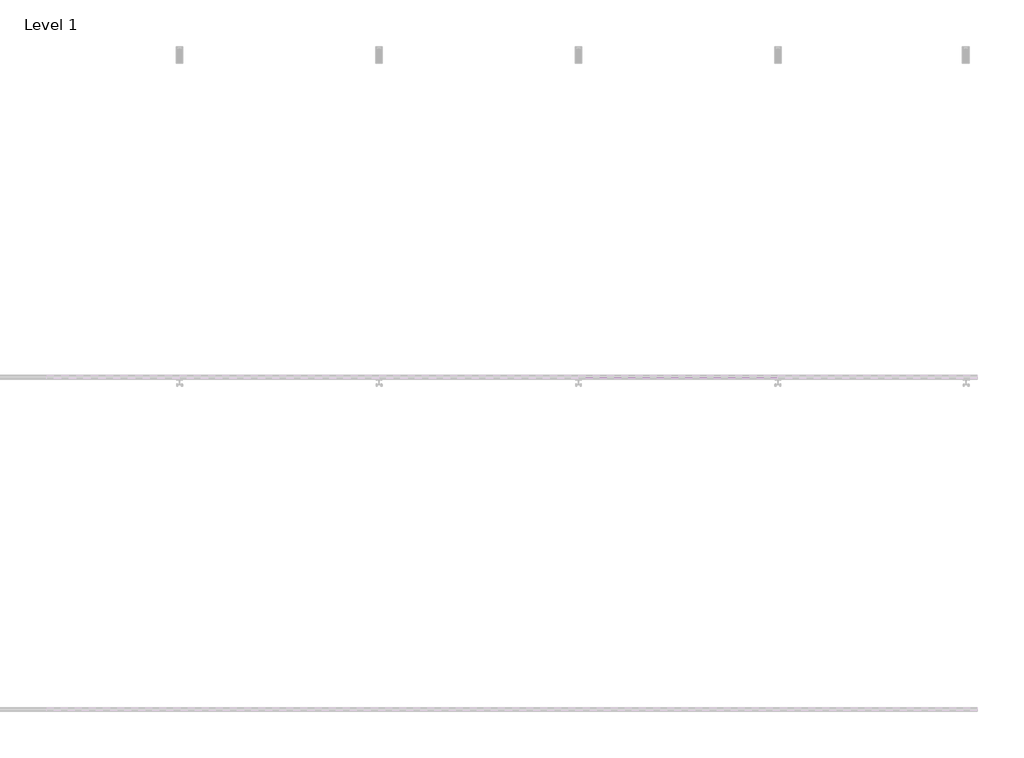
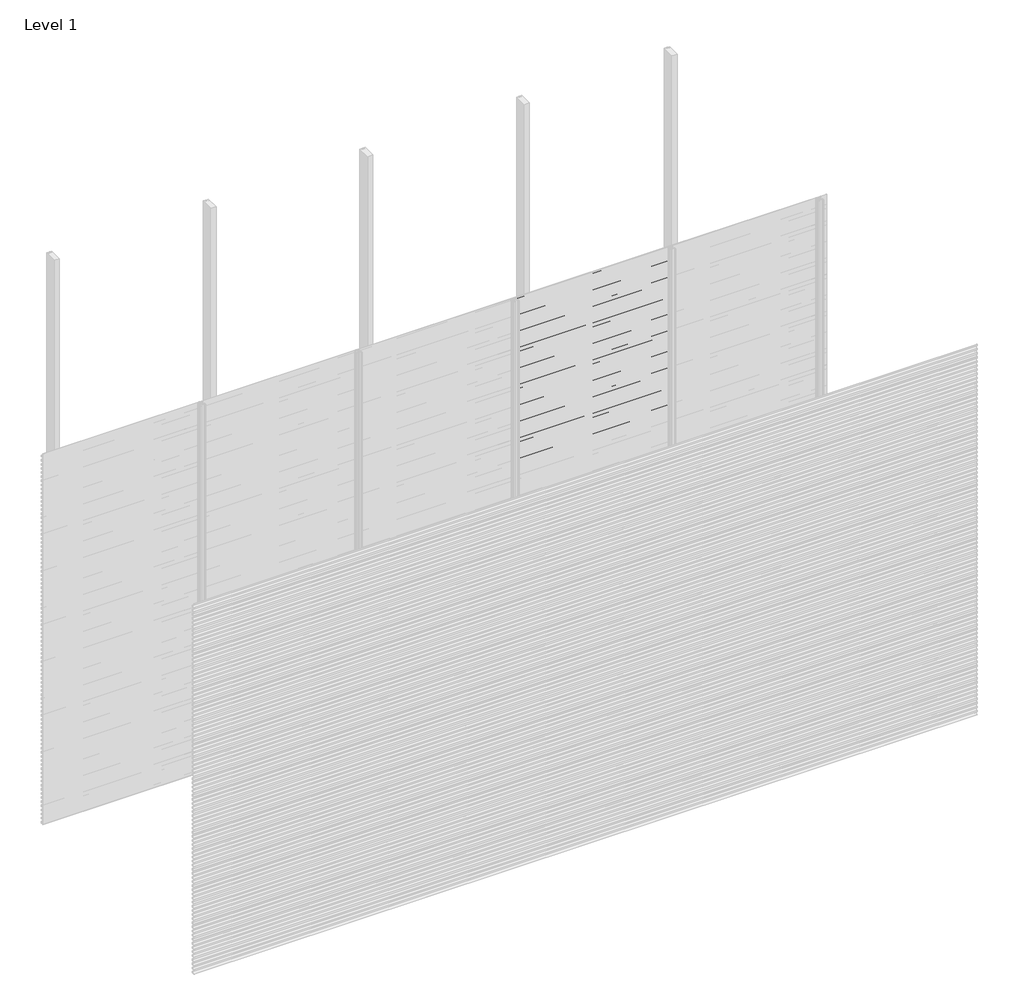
# One storey, part 23 of 77: 72 proxies.
"""IFC4 building model written with IfcOpenShell, lengths in millimetres."""

from ifc_helpers import new_model, si_unit, frame, origin, place, context, project, spatial, polyline, outline, extrude, element, save

model = new_model("IFC4")

# Units and contexts
model_context = context("Model", 3, world=origin())
ifc_project = project(units=[si_unit("LENGTHUNIT", "METRE", prefix="MILLI")], contexts=[model_context])

# Site, building, storey
site = spatial("IfcSite", under=ifc_project)
building = spatial("IfcBuilding", under=site)
storey = spatial("IfcBuildingStorey", under=building, Name="Level 1", Elevation=0.0)

# Proxies
placement = place(None, origin())
element("IfcBuildingElementProxy", 1, Name="Wall Sweeps", at=placement, inside=storey, context=model_context, shape_type="SweptSolid", body=[
    extrude(outline(polyline([(-41978.6, 1007.8359887), (-41998.0, 1019.0366691), (-41998.0, 1032.3), (-41997.0, 1032.3), (-41997.0, 1019.6191057), (-41977.6, 1008.4185105), (-41977.6, 994.8185105), (-41978.6, 996.3953129), (-41978.6, 1002.2032062), (-41995.9773817, 994.1), (-41996.4, 995.0063078), (-41978.6, 1003.3065841), (-41978.6, 1007.8359887)])), frame((2400.0, 0.0, 0.0), z_axis=(1.0, 0.0, 0.0), x_axis=(0.0, 1.0, 0.0)), (0.0, 0.0, 1.0), 1200.0),
])
element("IfcBuildingElementProxy", 2, Name="Wall Sweeps", at=placement, inside=storey, context=model_context, shape_type="SweptSolid", body=[
    extrude(outline(polyline([(-41978.6, 974.5359887), (-41998.0, 985.7366691), (-41998.0, 999.0), (-41997.0, 999.0), (-41997.0, 986.3191057), (-41977.6, 975.1185105), (-41977.6, 961.5185105), (-41978.6, 963.0953129), (-41978.6, 968.9032062), (-41995.9773817, 960.8), (-41996.4, 961.7063078), (-41978.6, 970.0065841), (-41978.6, 974.5359887)])), frame((2400.0, 0.0, 0.0), z_axis=(1.0, 0.0, 0.0), x_axis=(0.0, 1.0, 0.0)), (0.0, 0.0, 1.0), 1200.0),
])
element("IfcBuildingElementProxy", 3, Name="Wall Sweeps", at=placement, inside=storey, context=model_context, shape_type="SweptSolid", body=[
    extrude(outline(polyline([(-41978.6, 941.2359887), (-41998.0, 952.4366691), (-41998.0, 965.7), (-41997.0, 965.7), (-41997.0, 953.0191057), (-41977.6, 941.8185105), (-41977.6, 928.2185105), (-41978.6, 929.7953129), (-41978.6, 935.6032062), (-41995.9773817, 927.5), (-41996.4, 928.4063078), (-41978.6, 936.7065841), (-41978.6, 941.2359887)])), frame((2400.0, 0.0, 0.0), z_axis=(1.0, 0.0, 0.0), x_axis=(0.0, 1.0, 0.0)), (0.0, 0.0, 1.0), 1200.0),
])
element("IfcBuildingElementProxy", 4, Name="Wall Sweeps", at=placement, inside=storey, context=model_context, shape_type="SweptSolid", body=[
    extrude(outline(polyline([(-41978.6, 907.9359887), (-41998.0, 919.1366691), (-41998.0, 932.4), (-41997.0, 932.4), (-41997.0, 919.7191057), (-41977.6, 908.5185105), (-41977.6, 894.9185105), (-41978.6, 896.4953129), (-41978.6, 902.3032062), (-41995.9773817, 894.2), (-41996.4, 895.1063078), (-41978.6, 903.4065841), (-41978.6, 907.9359887)])), frame((2400.0, 0.0, 0.0), z_axis=(1.0, 0.0, 0.0), x_axis=(0.0, 1.0, 0.0)), (0.0, 0.0, 1.0), 1200.0),
])
element("IfcBuildingElementProxy", 5, Name="Wall Sweeps", at=placement, inside=storey, context=model_context, shape_type="SweptSolid", body=[
    extrude(outline(polyline([(-41978.6, 874.6359887), (-41998.0, 885.8366691), (-41998.0, 899.1), (-41997.0, 899.1), (-41997.0, 886.4191057), (-41977.6, 875.2185105), (-41977.6, 861.6185105), (-41978.6, 863.1953129), (-41978.6, 869.0032062), (-41995.9773817, 860.9), (-41996.4, 861.8063078), (-41978.6, 870.1065841), (-41978.6, 874.6359887)])), frame((2400.0, 0.0, 0.0), z_axis=(1.0, 0.0, 0.0), x_axis=(0.0, 1.0, 0.0)), (0.0, 0.0, 1.0), 1200.0),
])
element("IfcBuildingElementProxy", 6, Name="Wall Sweeps", at=placement, inside=storey, context=model_context, shape_type="SweptSolid", body=[
    extrude(outline(polyline([(-41978.6, 841.3359887), (-41998.0, 852.5366691), (-41998.0, 865.8), (-41997.0, 865.8), (-41997.0, 853.1191057), (-41977.6, 841.9185105), (-41977.6, 828.3185105), (-41978.6, 829.8953129), (-41978.6, 835.7032062), (-41995.9773817, 827.6), (-41996.4, 828.5063078), (-41978.6, 836.8065841), (-41978.6, 841.3359887)])), frame((2400.0, 0.0, 0.0), z_axis=(1.0, 0.0, 0.0), x_axis=(0.0, 1.0, 0.0)), (0.0, 0.0, 1.0), 1200.0),
])
element("IfcBuildingElementProxy", 7, Name="Wall Sweeps", at=placement, inside=storey, context=model_context, shape_type="SweptSolid", body=[
    extrude(outline(polyline([(-41978.6, 808.0359887), (-41998.0, 819.2366691), (-41998.0, 832.5), (-41997.0, 832.5), (-41997.0, 819.8191057), (-41977.6, 808.6185105), (-41977.6, 795.0185105), (-41978.6, 796.5953129), (-41978.6, 802.4032062), (-41995.9773817, 794.3), (-41996.4, 795.2063078), (-41978.6, 803.5065841), (-41978.6, 808.0359887)])), frame((2400.0, 0.0, 0.0), z_axis=(1.0, 0.0, 0.0), x_axis=(0.0, 1.0, 0.0)), (0.0, 0.0, 1.0), 1200.0),
])
element("IfcBuildingElementProxy", 8, Name="Wall Sweeps", at=placement, inside=storey, context=model_context, shape_type="SweptSolid", body=[
    extrude(outline(polyline([(-41978.6, 774.7359887), (-41998.0, 785.9366691), (-41998.0, 799.2), (-41997.0, 799.2), (-41997.0, 786.5191057), (-41977.6, 775.3185105), (-41977.6, 761.7185105), (-41978.6, 763.2953129), (-41978.6, 769.1032062), (-41995.9773817, 761.0), (-41996.4, 761.9063078), (-41978.6, 770.2065841), (-41978.6, 774.7359887)])), frame((2400.0, 0.0, 0.0), z_axis=(1.0, 0.0, 0.0), x_axis=(0.0, 1.0, 0.0)), (0.0, 0.0, 1.0), 1200.0),
])
element("IfcBuildingElementProxy", 9, Name="Wall Sweeps", at=placement, inside=storey, context=model_context, shape_type="SweptSolid", body=[
    extrude(outline(polyline([(-41978.6, 741.4359887), (-41998.0, 752.6366691), (-41998.0, 765.9), (-41997.0, 765.9), (-41997.0, 753.2191057), (-41977.6, 742.0185105), (-41977.6, 728.4185105), (-41978.6, 729.9953129), (-41978.6, 735.8032062), (-41995.9773817, 727.7), (-41996.4, 728.6063078), (-41978.6, 736.9065841), (-41978.6, 741.4359887)])), frame((2400.0, 0.0, 0.0), z_axis=(1.0, 0.0, 0.0), x_axis=(0.0, 1.0, 0.0)), (0.0, 0.0, 1.0), 1200.0),
])
element("IfcBuildingElementProxy", 10, Name="Wall Sweeps", at=placement, inside=storey, context=model_context, shape_type="SweptSolid", body=[
    extrude(outline(polyline([(-41978.6, 708.1359887), (-41998.0, 719.3366691), (-41998.0, 732.6), (-41997.0, 732.6), (-41997.0, 719.9191057), (-41977.6, 708.7185105), (-41977.6, 695.1185105), (-41978.6, 696.6953129), (-41978.6, 702.5032062), (-41995.9773817, 694.4), (-41996.4, 695.3063078), (-41978.6, 703.6065841), (-41978.6, 708.1359887)])), frame((2400.0, 0.0, 0.0), z_axis=(1.0, 0.0, 0.0), x_axis=(0.0, 1.0, 0.0)), (0.0, 0.0, 1.0), 1200.0),
])
element("IfcBuildingElementProxy", 11, Name="Wall Sweeps", at=placement, inside=storey, context=model_context, shape_type="SweptSolid", body=[
    extrude(outline(polyline([(-41978.6, 674.8359887), (-41998.0, 686.0366691), (-41998.0, 699.3), (-41997.0, 699.3), (-41997.0, 686.6191057), (-41977.6, 675.4185105), (-41977.6, 661.8185105), (-41978.6, 663.3953129), (-41978.6, 669.2032062), (-41995.9773817, 661.1), (-41996.4, 662.0063078), (-41978.6, 670.3065841), (-41978.6, 674.8359887)])), frame((2400.0, 0.0, 0.0), z_axis=(1.0, 0.0, 0.0), x_axis=(0.0, 1.0, 0.0)), (0.0, 0.0, 1.0), 1200.0),
])
element("IfcBuildingElementProxy", 12, Name="Wall Sweeps", at=placement, inside=storey, context=model_context, shape_type="SweptSolid", body=[
    extrude(outline(polyline([(-41978.6, 641.5359887), (-41998.0, 652.7366691), (-41998.0, 666.0), (-41997.0, 666.0), (-41997.0, 653.3191057), (-41977.6, 642.1185105), (-41977.6, 628.5185105), (-41978.6, 630.0953129), (-41978.6, 635.9032062), (-41995.9773817, 627.8), (-41996.4, 628.7063078), (-41978.6, 637.0065841), (-41978.6, 641.5359887)])), frame((2400.0, 0.0, 0.0), z_axis=(1.0, 0.0, 0.0), x_axis=(0.0, 1.0, 0.0)), (0.0, 0.0, 1.0), 1200.0),
])
element("IfcBuildingElementProxy", 13, Name="Wall Sweeps", at=placement, inside=storey, context=model_context, shape_type="SweptSolid", body=[
    extrude(outline(polyline([(-41978.6, 608.2359887), (-41998.0, 619.4366691), (-41998.0, 632.7), (-41997.0, 632.7), (-41997.0, 620.0191057), (-41977.6, 608.8185105), (-41977.6, 595.2185105), (-41978.6, 596.7953129), (-41978.6, 602.6032062), (-41995.9773817, 594.5), (-41996.4, 595.4063078), (-41978.6, 603.7065841), (-41978.6, 608.2359887)])), frame((2400.0, 0.0, 0.0), z_axis=(1.0, 0.0, 0.0), x_axis=(0.0, 1.0, 0.0)), (0.0, 0.0, 1.0), 1200.0),
])
element("IfcBuildingElementProxy", 14, Name="Wall Sweeps", at=placement, inside=storey, context=model_context, shape_type="SweptSolid", body=[
    extrude(outline(polyline([(-41978.6, 574.9359887), (-41998.0, 586.1366691), (-41998.0, 599.4), (-41997.0, 599.4), (-41997.0, 586.7191057), (-41977.6, 575.5185105), (-41977.6, 561.9185105), (-41978.6, 563.4953129), (-41978.6, 569.3032062), (-41995.9773817, 561.2), (-41996.4, 562.1063078), (-41978.6, 570.4065841), (-41978.6, 574.9359887)])), frame((2400.0, 0.0, 0.0), z_axis=(1.0, 0.0, 0.0), x_axis=(0.0, 1.0, 0.0)), (0.0, 0.0, 1.0), 1200.0),
])
element("IfcBuildingElementProxy", 15, Name="Wall Sweeps", at=placement, inside=storey, context=model_context, shape_type="SweptSolid", body=[
    extrude(outline(polyline([(-41978.6, 541.6359887), (-41998.0, 552.8366691), (-41998.0, 566.1), (-41997.0, 566.1), (-41997.0, 553.4191057), (-41977.6, 542.2185105), (-41977.6, 528.6185105), (-41978.6, 530.1953129), (-41978.6, 536.0032062), (-41995.9773817, 527.9), (-41996.4, 528.8063078), (-41978.6, 537.1065841), (-41978.6, 541.6359887)])), frame((2400.0, 0.0, 0.0), z_axis=(1.0, 0.0, 0.0), x_axis=(0.0, 1.0, 0.0)), (0.0, 0.0, 1.0), 1200.0),
])
element("IfcBuildingElementProxy", 16, Name="Wall Sweeps", at=placement, inside=storey, context=model_context, shape_type="SweptSolid", body=[
    extrude(outline(polyline([(-41978.6, 508.3359887), (-41998.0, 519.5366691), (-41998.0, 532.8), (-41997.0, 532.8), (-41997.0, 520.1191057), (-41977.6, 508.9185105), (-41977.6, 495.3185105), (-41978.6, 496.8953129), (-41978.6, 502.7032062), (-41995.9773817, 494.6), (-41996.4, 495.5063078), (-41978.6, 503.8065841), (-41978.6, 508.3359887)])), frame((2400.0, 0.0, 0.0), z_axis=(1.0, 0.0, 0.0), x_axis=(0.0, 1.0, 0.0)), (0.0, 0.0, 1.0), 1200.0),
])
element("IfcBuildingElementProxy", 17, Name="Wall Sweeps", at=placement, inside=storey, context=model_context, shape_type="SweptSolid", body=[
    extrude(outline(polyline([(-41978.6, 475.0359887), (-41998.0, 486.2366691), (-41998.0, 499.5), (-41997.0, 499.5), (-41997.0, 486.8191057), (-41977.6, 475.6185105), (-41977.6, 462.0185105), (-41978.6, 463.5953129), (-41978.6, 469.4032062), (-41995.9773817, 461.3), (-41996.4, 462.2063078), (-41978.6, 470.5065841), (-41978.6, 475.0359887)])), frame((2400.0, 0.0, 0.0), z_axis=(1.0, 0.0, 0.0), x_axis=(0.0, 1.0, 0.0)), (0.0, 0.0, 1.0), 1200.0),
])
element("IfcBuildingElementProxy", 18, Name="Wall Sweeps", at=placement, inside=storey, context=model_context, shape_type="SweptSolid", body=[
    extrude(outline(polyline([(-41978.6, 441.7359887), (-41998.0, 452.9366691), (-41998.0, 466.2), (-41997.0, 466.2), (-41997.0, 453.5191057), (-41977.6, 442.3185105), (-41977.6, 428.7185105), (-41978.6, 430.2953129), (-41978.6, 436.1032062), (-41995.9773817, 428.0), (-41996.4, 428.9063078), (-41978.6, 437.2065841), (-41978.6, 441.7359887)])), frame((2400.0, 0.0, 0.0), z_axis=(1.0, 0.0, 0.0), x_axis=(0.0, 1.0, 0.0)), (0.0, 0.0, 1.0), 1200.0),
])
element("IfcBuildingElementProxy", 19, Name="Wall Sweeps", at=placement, inside=storey, context=model_context, shape_type="SweptSolid", body=[
    extrude(outline(polyline([(-41978.6, 408.4359887), (-41998.0, 419.6366691), (-41998.0, 432.9), (-41997.0, 432.9), (-41997.0, 420.2191057), (-41977.6, 409.0185105), (-41977.6, 395.4185105), (-41978.6, 396.9953129), (-41978.6, 402.8032062), (-41995.9773817, 394.7), (-41996.4, 395.6063078), (-41978.6, 403.9065841), (-41978.6, 408.4359887)])), frame((2400.0, 0.0, 0.0), z_axis=(1.0, 0.0, 0.0), x_axis=(0.0, 1.0, 0.0)), (0.0, 0.0, 1.0), 1200.0),
])
element("IfcBuildingElementProxy", 20, Name="Wall Sweeps", at=placement, inside=storey, context=model_context, shape_type="SweptSolid", body=[
    extrude(outline(polyline([(-41978.6, 375.1359887), (-41998.0, 386.3366691), (-41998.0, 399.6), (-41997.0, 399.6), (-41997.0, 386.9191057), (-41977.6, 375.7185105), (-41977.6, 362.1185105), (-41978.6, 363.6953129), (-41978.6, 369.5032062), (-41995.9773817, 361.4), (-41996.4, 362.3063078), (-41978.6, 370.6065841), (-41978.6, 375.1359887)])), frame((2400.0, 0.0, 0.0), z_axis=(1.0, 0.0, 0.0), x_axis=(0.0, 1.0, 0.0)), (0.0, 0.0, 1.0), 1200.0),
])
element("IfcBuildingElementProxy", 21, Name="Wall Sweeps", at=placement, inside=storey, context=model_context, shape_type="SweptSolid", body=[
    extrude(outline(polyline([(-41978.6, 341.8359887), (-41998.0, 353.0366691), (-41998.0, 366.3), (-41997.0, 366.3), (-41997.0, 353.6191057), (-41977.6, 342.4185105), (-41977.6, 328.8185105), (-41978.6, 330.3953129), (-41978.6, 336.2032062), (-41995.9773817, 328.1), (-41996.4, 329.0063078), (-41978.6, 337.3065841), (-41978.6, 341.8359887)])), frame((2400.0, 0.0, 0.0), z_axis=(1.0, 0.0, 0.0), x_axis=(0.0, 1.0, 0.0)), (0.0, 0.0, 1.0), 1200.0),
])
element("IfcBuildingElementProxy", 22, Name="Wall Sweeps", at=placement, inside=storey, context=model_context, shape_type="SweptSolid", body=[
    extrude(outline(polyline([(-41978.6, 308.5359887), (-41998.0, 319.7366691), (-41998.0, 333.0), (-41997.0, 333.0), (-41997.0, 320.3191057), (-41977.6, 309.1185105), (-41977.6, 295.5185105), (-41978.6, 297.0953129), (-41978.6, 302.9032062), (-41995.9773817, 294.8), (-41996.4, 295.7063078), (-41978.6, 304.0065841), (-41978.6, 308.5359887)])), frame((2400.0, 0.0, 0.0), z_axis=(1.0, 0.0, 0.0), x_axis=(0.0, 1.0, 0.0)), (0.0, 0.0, 1.0), 1200.0),
])
element("IfcBuildingElementProxy", 23, Name="Wall Sweeps", at=placement, inside=storey, context=model_context, shape_type="SweptSolid", body=[
    extrude(outline(polyline([(-41978.6, 275.2359887), (-41998.0, 286.4366691), (-41998.0, 299.7), (-41997.0, 299.7), (-41997.0, 287.0191057), (-41977.6, 275.8185105), (-41977.6, 262.2185105), (-41978.6, 263.7953129), (-41978.6, 269.6032062), (-41995.9773817, 261.5), (-41996.4, 262.4063078), (-41978.6, 270.7065841), (-41978.6, 275.2359887)])), frame((2400.0, 0.0, 0.0), z_axis=(1.0, 0.0, 0.0), x_axis=(0.0, 1.0, 0.0)), (0.0, 0.0, 1.0), 1200.0),
])
element("IfcBuildingElementProxy", 24, Name="Wall Sweeps", at=placement, inside=storey, context=model_context, shape_type="SweptSolid", body=[
    extrude(outline(polyline([(-41978.6, 241.9359887), (-41998.0, 253.1366691), (-41998.0, 266.4), (-41997.0, 266.4), (-41997.0, 253.7191057), (-41977.6, 242.5185105), (-41977.6, 228.9185105), (-41978.6, 230.4953129), (-41978.6, 236.3032062), (-41995.9773817, 228.2), (-41996.4, 229.1063078), (-41978.6, 237.4065841), (-41978.6, 241.9359887)])), frame((2400.0, 0.0, 0.0), z_axis=(1.0, 0.0, 0.0), x_axis=(0.0, 1.0, 0.0)), (0.0, 0.0, 1.0), 1200.0),
])
element("IfcBuildingElementProxy", 25, Name="Wall Sweeps", at=placement, inside=storey, context=model_context, shape_type="SweptSolid", body=[
    extrude(outline(polyline([(-41978.6, 208.6359887), (-41998.0, 219.8366691), (-41998.0, 233.1), (-41997.0, 233.1), (-41997.0, 220.4191057), (-41977.6, 209.2185105), (-41977.6, 195.6185105), (-41978.6, 197.1953129), (-41978.6, 203.0032062), (-41995.9773817, 194.9), (-41996.4, 195.8063078), (-41978.6, 204.1065841), (-41978.6, 208.6359887)])), frame((2400.0, 0.0, 0.0), z_axis=(1.0, 0.0, 0.0), x_axis=(0.0, 1.0, 0.0)), (0.0, 0.0, 1.0), 1200.0),
])
element("IfcBuildingElementProxy", 26, Name="Wall Sweeps", at=placement, inside=storey, context=model_context, shape_type="SweptSolid", body=[
    extrude(outline(polyline([(-41978.6, 175.3359887), (-41998.0, 186.5366691), (-41998.0, 199.8), (-41997.0, 199.8), (-41997.0, 187.1191057), (-41977.6, 175.9185105), (-41977.6, 162.3185105), (-41978.6, 163.8953129), (-41978.6, 169.7032062), (-41995.9773817, 161.6), (-41996.4, 162.5063078), (-41978.6, 170.8065841), (-41978.6, 175.3359887)])), frame((2400.0, 0.0, 0.0), z_axis=(1.0, 0.0, 0.0), x_axis=(0.0, 1.0, 0.0)), (0.0, 0.0, 1.0), 1200.0),
])
element("IfcBuildingElementProxy", 27, Name="Wall Sweeps", at=placement, inside=storey, context=model_context, shape_type="SweptSolid", body=[
    extrude(outline(polyline([(-41978.6, 142.0359887), (-41998.0, 153.2366691), (-41998.0, 166.5), (-41997.0, 166.5), (-41997.0, 153.8191057), (-41977.6, 142.6185105), (-41977.6, 129.0185105), (-41978.6, 130.5953129), (-41978.6, 136.4032062), (-41995.9773817, 128.3), (-41996.4, 129.2063078), (-41978.6, 137.5065841), (-41978.6, 142.0359887)])), frame((2400.0, 0.0, 0.0), z_axis=(1.0, 0.0, 0.0), x_axis=(0.0, 1.0, 0.0)), (0.0, 0.0, 1.0), 1200.0),
])
element("IfcBuildingElementProxy", 28, Name="Wall Sweeps", at=placement, inside=storey, context=model_context, shape_type="SweptSolid", body=[
    extrude(outline(polyline([(-41978.6, 108.7359887), (-41998.0, 119.9366691), (-41998.0, 133.2), (-41997.0, 133.2), (-41997.0, 120.5191057), (-41977.6, 109.3185105), (-41977.6, 95.7185105), (-41978.6, 97.2953129), (-41978.6, 103.1032062), (-41995.9773817, 95.0), (-41996.4, 95.9063078), (-41978.6, 104.2065841), (-41978.6, 108.7359887)])), frame((2400.0, 0.0, 0.0), z_axis=(1.0, 0.0, 0.0), x_axis=(0.0, 1.0, 0.0)), (0.0, 0.0, 1.0), 1200.0),
])
element("IfcBuildingElementProxy", 29, Name="Wall Sweeps", at=placement, inside=storey, context=model_context, shape_type="SweptSolid", body=[
    extrude(outline(polyline([(-41978.6, 75.4359887), (-41998.0, 86.6366691), (-41998.0, 99.9), (-41997.0, 99.9), (-41997.0, 87.2191057), (-41977.6, 76.0185105), (-41977.6, 62.4185105), (-41978.6, 63.9953129), (-41978.6, 69.8032062), (-41995.9773817, 61.7), (-41996.4, 62.6063078), (-41978.6, 70.9065841), (-41978.6, 75.4359887)])), frame((2400.0, 0.0, 0.0), z_axis=(1.0, 0.0, 0.0), x_axis=(0.0, 1.0, 0.0)), (0.0, 0.0, 1.0), 1200.0),
])
element("IfcBuildingElementProxy", 30, Name="Wall Sweeps", at=placement, inside=storey, context=model_context, shape_type="SweptSolid", body=[
    extrude(outline(polyline([(-41978.6, 42.1359887), (-41998.0, 53.3366691), (-41998.0, 66.6), (-41997.0, 66.6), (-41997.0, 53.9191057), (-41977.6, 42.7185105), (-41977.6, 29.1185105), (-41978.6, 30.6953129), (-41978.6, 36.5032062), (-41995.9773817, 28.4), (-41996.4, 29.3063078), (-41978.6, 37.6065841), (-41978.6, 42.1359887)])), frame((2400.0, 0.0, 0.0), z_axis=(1.0, 0.0, 0.0), x_axis=(0.0, 1.0, 0.0)), (0.0, 0.0, 1.0), 1200.0),
])
element("IfcBuildingElementProxy", 31, Name="Wall Sweeps", at=placement, inside=storey, context=model_context, shape_type="SweptSolid", body=[
    extrude(outline(polyline([(-41978.6, 8.8359887), (-41998.0, 20.0366691), (-41998.0, 33.3), (-41997.0, 33.3), (-41997.0, 20.6191057), (-41977.6, 9.4185105), (-41977.6, -4.1814895), (-41978.6, -2.6046871), (-41978.6, 3.2032062), (-41995.9773817, -4.9), (-41996.4, -3.9936922), (-41978.6, 4.3065841), (-41978.6, 8.8359887)])), frame((2400.0, 0.0, 0.0), z_axis=(1.0, 0.0, 0.0), x_axis=(0.0, 1.0, 0.0)), (0.0, 0.0, 1.0), 1200.0),
])
element("IfcBuildingElementProxy", 32, Name="Wall Sweeps", at=placement, inside=storey, context=model_context, shape_type="SweptSolid", body=[
    extrude(outline(polyline([(-41978.6, 2972.5359887), (-41998.0, 2983.7366691), (-41998.0, 2997.0), (-41997.0, 2997.0), (-41997.0, 2984.3191057), (-41977.6, 2973.1185105), (-41977.6, 2959.5185105), (-41978.6, 2961.0953129), (-41978.6, 2966.9032062), (-41995.9773817, 2958.8), (-41996.4, 2959.7063078), (-41978.6, 2968.0065841), (-41978.6, 2972.5359887)])), frame((3600.0, 0.0, 0.0), z_axis=(1.0, 0.0, 0.0), x_axis=(0.0, 1.0, 0.0)), (0.0, 0.0, 1.0), 1200.0),
])
element("IfcBuildingElementProxy", 33, Name="Wall Sweeps", at=placement, inside=storey, context=model_context, shape_type="SweptSolid", body=[
    extrude(outline(polyline([(-41978.6, 2939.2359887), (-41998.0, 2950.4366691), (-41998.0, 2963.7), (-41997.0, 2963.7), (-41997.0, 2951.0191057), (-41977.6, 2939.8185105), (-41977.6, 2926.2185105), (-41978.6, 2927.7953129), (-41978.6, 2933.6032062), (-41995.9773817, 2925.5), (-41996.4, 2926.4063078), (-41978.6, 2934.7065841), (-41978.6, 2939.2359887)])), frame((3600.0, 0.0, 0.0), z_axis=(1.0, 0.0, 0.0), x_axis=(0.0, 1.0, 0.0)), (0.0, 0.0, 1.0), 1200.0),
])
element("IfcBuildingElementProxy", 34, Name="Wall Sweeps", at=placement, inside=storey, context=model_context, shape_type="SweptSolid", body=[
    extrude(outline(polyline([(-41978.6, 2905.9359887), (-41998.0, 2917.1366691), (-41998.0, 2930.4), (-41997.0, 2930.4), (-41997.0, 2917.7191057), (-41977.6, 2906.5185105), (-41977.6, 2892.9185105), (-41978.6, 2894.4953129), (-41978.6, 2900.3032062), (-41995.9773817, 2892.2), (-41996.4, 2893.1063078), (-41978.6, 2901.4065841), (-41978.6, 2905.9359887)])), frame((3600.0, 0.0, 0.0), z_axis=(1.0, 0.0, 0.0), x_axis=(0.0, 1.0, 0.0)), (0.0, 0.0, 1.0), 1200.0),
])
element("IfcBuildingElementProxy", 35, Name="Wall Sweeps", at=placement, inside=storey, context=model_context, shape_type="SweptSolid", body=[
    extrude(outline(polyline([(-41978.6, 2872.6359887), (-41998.0, 2883.8366691), (-41998.0, 2897.1), (-41997.0, 2897.1), (-41997.0, 2884.4191057), (-41977.6, 2873.2185105), (-41977.6, 2859.6185105), (-41978.6, 2861.1953129), (-41978.6, 2867.0032062), (-41995.9773817, 2858.9), (-41996.4, 2859.8063078), (-41978.6, 2868.1065841), (-41978.6, 2872.6359887)])), frame((3600.0, 0.0, 0.0), z_axis=(1.0, 0.0, 0.0), x_axis=(0.0, 1.0, 0.0)), (0.0, 0.0, 1.0), 1200.0),
])
element("IfcBuildingElementProxy", 36, Name="Wall Sweeps", at=placement, inside=storey, context=model_context, shape_type="SweptSolid", body=[
    extrude(outline(polyline([(-41978.6, 2839.3359887), (-41998.0, 2850.5366691), (-41998.0, 2863.8), (-41997.0, 2863.8), (-41997.0, 2851.1191057), (-41977.6, 2839.9185105), (-41977.6, 2826.3185105), (-41978.6, 2827.8953129), (-41978.6, 2833.7032062), (-41995.9773817, 2825.6), (-41996.4, 2826.5063078), (-41978.6, 2834.8065841), (-41978.6, 2839.3359887)])), frame((3600.0, 0.0, 0.0), z_axis=(1.0, 0.0, 0.0), x_axis=(0.0, 1.0, 0.0)), (0.0, 0.0, 1.0), 1200.0),
])
element("IfcBuildingElementProxy", 37, Name="Wall Sweeps", at=placement, inside=storey, context=model_context, shape_type="SweptSolid", body=[
    extrude(outline(polyline([(-41978.6, 2806.0359887), (-41998.0, 2817.2366691), (-41998.0, 2830.5), (-41997.0, 2830.5), (-41997.0, 2817.8191057), (-41977.6, 2806.6185105), (-41977.6, 2793.0185105), (-41978.6, 2794.5953129), (-41978.6, 2800.4032062), (-41995.9773817, 2792.3), (-41996.4, 2793.2063078), (-41978.6, 2801.5065841), (-41978.6, 2806.0359887)])), frame((3600.0, 0.0, 0.0), z_axis=(1.0, 0.0, 0.0), x_axis=(0.0, 1.0, 0.0)), (0.0, 0.0, 1.0), 1200.0),
])
element("IfcBuildingElementProxy", 38, Name="Wall Sweeps", at=placement, inside=storey, context=model_context, shape_type="SweptSolid", body=[
    extrude(outline(polyline([(-41978.6, 2772.7359887), (-41998.0, 2783.9366691), (-41998.0, 2797.2), (-41997.0, 2797.2), (-41997.0, 2784.5191057), (-41977.6, 2773.3185105), (-41977.6, 2759.7185105), (-41978.6, 2761.2953129), (-41978.6, 2767.1032062), (-41995.9773817, 2759.0), (-41996.4, 2759.9063078), (-41978.6, 2768.2065841), (-41978.6, 2772.7359887)])), frame((3600.0, 0.0, 0.0), z_axis=(1.0, 0.0, 0.0), x_axis=(0.0, 1.0, 0.0)), (0.0, 0.0, 1.0), 1200.0),
])
element("IfcBuildingElementProxy", 39, Name="Wall Sweeps", at=placement, inside=storey, context=model_context, shape_type="SweptSolid", body=[
    extrude(outline(polyline([(-41978.6, 2739.4359887), (-41998.0, 2750.6366691), (-41998.0, 2763.9), (-41997.0, 2763.9), (-41997.0, 2751.2191057), (-41977.6, 2740.0185105), (-41977.6, 2726.4185105), (-41978.6, 2727.9953129), (-41978.6, 2733.8032062), (-41995.9773817, 2725.7), (-41996.4, 2726.6063078), (-41978.6, 2734.9065841), (-41978.6, 2739.4359887)])), frame((3600.0, 0.0, 0.0), z_axis=(1.0, 0.0, 0.0), x_axis=(0.0, 1.0, 0.0)), (0.0, 0.0, 1.0), 1200.0),
])
element("IfcBuildingElementProxy", 40, Name="Wall Sweeps", at=placement, inside=storey, context=model_context, shape_type="SweptSolid", body=[
    extrude(outline(polyline([(-41978.6, 2706.1359887), (-41998.0, 2717.3366691), (-41998.0, 2730.6), (-41997.0, 2730.6), (-41997.0, 2717.9191057), (-41977.6, 2706.7185105), (-41977.6, 2693.1185105), (-41978.6, 2694.6953129), (-41978.6, 2700.5032062), (-41995.9773817, 2692.4), (-41996.4, 2693.3063078), (-41978.6, 2701.6065841), (-41978.6, 2706.1359887)])), frame((3600.0, 0.0, 0.0), z_axis=(1.0, 0.0, 0.0), x_axis=(0.0, 1.0, 0.0)), (0.0, 0.0, 1.0), 1200.0),
])
element("IfcBuildingElementProxy", 41, Name="Wall Sweeps", at=placement, inside=storey, context=model_context, shape_type="SweptSolid", body=[
    extrude(outline(polyline([(-41978.6, 2672.8359887), (-41998.0, 2684.0366691), (-41998.0, 2697.3), (-41997.0, 2697.3), (-41997.0, 2684.6191057), (-41977.6, 2673.4185105), (-41977.6, 2659.8185105), (-41978.6, 2661.3953129), (-41978.6, 2667.2032062), (-41995.9773817, 2659.1), (-41996.4, 2660.0063078), (-41978.6, 2668.3065841), (-41978.6, 2672.8359887)])), frame((3600.0, 0.0, 0.0), z_axis=(1.0, 0.0, 0.0), x_axis=(0.0, 1.0, 0.0)), (0.0, 0.0, 1.0), 1200.0),
])
element("IfcBuildingElementProxy", 42, Name="Wall Sweeps", at=placement, inside=storey, context=model_context, shape_type="SweptSolid", body=[
    extrude(outline(polyline([(-41978.6, 2639.5359887), (-41998.0, 2650.7366691), (-41998.0, 2664.0), (-41997.0, 2664.0), (-41997.0, 2651.3191057), (-41977.6, 2640.1185105), (-41977.6, 2626.5185105), (-41978.6, 2628.0953129), (-41978.6, 2633.9032062), (-41995.9773817, 2625.8), (-41996.4, 2626.7063078), (-41978.6, 2635.0065841), (-41978.6, 2639.5359887)])), frame((3600.0, 0.0, 0.0), z_axis=(1.0, 0.0, 0.0), x_axis=(0.0, 1.0, 0.0)), (0.0, 0.0, 1.0), 1200.0),
])
element("IfcBuildingElementProxy", 43, Name="Wall Sweeps", at=placement, inside=storey, context=model_context, shape_type="SweptSolid", body=[
    extrude(outline(polyline([(-41978.6, 2606.2359887), (-41998.0, 2617.4366691), (-41998.0, 2630.7), (-41997.0, 2630.7), (-41997.0, 2618.0191057), (-41977.6, 2606.8185105), (-41977.6, 2593.2185105), (-41978.6, 2594.7953129), (-41978.6, 2600.6032062), (-41995.9773817, 2592.5), (-41996.4, 2593.4063078), (-41978.6, 2601.7065841), (-41978.6, 2606.2359887)])), frame((3600.0, 0.0, 0.0), z_axis=(1.0, 0.0, 0.0), x_axis=(0.0, 1.0, 0.0)), (0.0, 0.0, 1.0), 1200.0),
])
element("IfcBuildingElementProxy", 44, Name="Wall Sweeps", at=placement, inside=storey, context=model_context, shape_type="SweptSolid", body=[
    extrude(outline(polyline([(-41978.6, 2572.9359887), (-41998.0, 2584.1366691), (-41998.0, 2597.4), (-41997.0, 2597.4), (-41997.0, 2584.7191057), (-41977.6, 2573.5185105), (-41977.6, 2559.9185105), (-41978.6, 2561.4953129), (-41978.6, 2567.3032062), (-41995.9773817, 2559.2), (-41996.4, 2560.1063078), (-41978.6, 2568.4065841), (-41978.6, 2572.9359887)])), frame((3600.0, 0.0, 0.0), z_axis=(1.0, 0.0, 0.0), x_axis=(0.0, 1.0, 0.0)), (0.0, 0.0, 1.0), 1200.0),
])
element("IfcBuildingElementProxy", 45, Name="Wall Sweeps", at=placement, inside=storey, context=model_context, shape_type="SweptSolid", body=[
    extrude(outline(polyline([(-41978.6, 2539.6359887), (-41998.0, 2550.8366691), (-41998.0, 2564.1), (-41997.0, 2564.1), (-41997.0, 2551.4191057), (-41977.6, 2540.2185105), (-41977.6, 2526.6185105), (-41978.6, 2528.1953129), (-41978.6, 2534.0032062), (-41995.9773817, 2525.9), (-41996.4, 2526.8063078), (-41978.6, 2535.1065841), (-41978.6, 2539.6359887)])), frame((3600.0, 0.0, 0.0), z_axis=(1.0, 0.0, 0.0), x_axis=(0.0, 1.0, 0.0)), (0.0, 0.0, 1.0), 1200.0),
])
element("IfcBuildingElementProxy", 46, Name="Wall Sweeps", at=placement, inside=storey, context=model_context, shape_type="SweptSolid", body=[
    extrude(outline(polyline([(-41978.6, 2506.3359887), (-41998.0, 2517.5366691), (-41998.0, 2530.8), (-41997.0, 2530.8), (-41997.0, 2518.1191057), (-41977.6, 2506.9185105), (-41977.6, 2493.3185105), (-41978.6, 2494.8953129), (-41978.6, 2500.7032062), (-41995.9773817, 2492.6), (-41996.4, 2493.5063078), (-41978.6, 2501.8065841), (-41978.6, 2506.3359887)])), frame((3600.0, 0.0, 0.0), z_axis=(1.0, 0.0, 0.0), x_axis=(0.0, 1.0, 0.0)), (0.0, 0.0, 1.0), 1200.0),
])
element("IfcBuildingElementProxy", 47, Name="Wall Sweeps", at=placement, inside=storey, context=model_context, shape_type="SweptSolid", body=[
    extrude(outline(polyline([(-41978.6, 2473.0359887), (-41998.0, 2484.2366691), (-41998.0, 2497.5), (-41997.0, 2497.5), (-41997.0, 2484.8191057), (-41977.6, 2473.6185105), (-41977.6, 2460.0185105), (-41978.6, 2461.5953129), (-41978.6, 2467.4032062), (-41995.9773817, 2459.3), (-41996.4, 2460.2063078), (-41978.6, 2468.5065841), (-41978.6, 2473.0359887)])), frame((3600.0, 0.0, 0.0), z_axis=(1.0, 0.0, 0.0), x_axis=(0.0, 1.0, 0.0)), (0.0, 0.0, 1.0), 1200.0),
])
element("IfcBuildingElementProxy", 48, Name="Wall Sweeps", at=placement, inside=storey, context=model_context, shape_type="SweptSolid", body=[
    extrude(outline(polyline([(-41978.6, 2439.7359887), (-41998.0, 2450.9366691), (-41998.0, 2464.2), (-41997.0, 2464.2), (-41997.0, 2451.5191057), (-41977.6, 2440.3185105), (-41977.6, 2426.7185105), (-41978.6, 2428.2953129), (-41978.6, 2434.1032062), (-41995.9773817, 2426.0), (-41996.4, 2426.9063078), (-41978.6, 2435.2065841), (-41978.6, 2439.7359887)])), frame((3600.0, 0.0, 0.0), z_axis=(1.0, 0.0, 0.0), x_axis=(0.0, 1.0, 0.0)), (0.0, 0.0, 1.0), 1200.0),
])
element("IfcBuildingElementProxy", 49, Name="Wall Sweeps", at=placement, inside=storey, context=model_context, shape_type="SweptSolid", body=[
    extrude(outline(polyline([(-41978.6, 2406.4359887), (-41998.0, 2417.6366691), (-41998.0, 2430.9), (-41997.0, 2430.9), (-41997.0, 2418.2191057), (-41977.6, 2407.0185105), (-41977.6, 2393.4185105), (-41978.6, 2394.9953129), (-41978.6, 2400.8032062), (-41995.9773817, 2392.7), (-41996.4, 2393.6063078), (-41978.6, 2401.9065841), (-41978.6, 2406.4359887)])), frame((3600.0, 0.0, 0.0), z_axis=(1.0, 0.0, 0.0), x_axis=(0.0, 1.0, 0.0)), (0.0, 0.0, 1.0), 1200.0),
])
element("IfcBuildingElementProxy", 50, Name="Wall Sweeps", at=placement, inside=storey, context=model_context, shape_type="SweptSolid", body=[
    extrude(outline(polyline([(-41978.6, 2373.1359887), (-41998.0, 2384.3366691), (-41998.0, 2397.6), (-41997.0, 2397.6), (-41997.0, 2384.9191057), (-41977.6, 2373.7185105), (-41977.6, 2360.1185105), (-41978.6, 2361.6953129), (-41978.6, 2367.5032062), (-41995.9773817, 2359.4), (-41996.4, 2360.3063078), (-41978.6, 2368.6065841), (-41978.6, 2373.1359887)])), frame((3600.0, 0.0, 0.0), z_axis=(1.0, 0.0, 0.0), x_axis=(0.0, 1.0, 0.0)), (0.0, 0.0, 1.0), 1200.0),
])
element("IfcBuildingElementProxy", 51, Name="Wall Sweeps", at=placement, inside=storey, context=model_context, shape_type="SweptSolid", body=[
    extrude(outline(polyline([(-41978.6, 2339.8359887), (-41998.0, 2351.0366691), (-41998.0, 2364.3), (-41997.0, 2364.3), (-41997.0, 2351.6191057), (-41977.6, 2340.4185105), (-41977.6, 2326.8185105), (-41978.6, 2328.3953129), (-41978.6, 2334.2032062), (-41995.9773817, 2326.1), (-41996.4, 2327.0063078), (-41978.6, 2335.3065841), (-41978.6, 2339.8359887)])), frame((3600.0, 0.0, 0.0), z_axis=(1.0, 0.0, 0.0), x_axis=(0.0, 1.0, 0.0)), (0.0, 0.0, 1.0), 1200.0),
])
element("IfcBuildingElementProxy", 52, Name="Wall Sweeps", at=placement, inside=storey, context=model_context, shape_type="SweptSolid", body=[
    extrude(outline(polyline([(-41978.6, 2306.5359887), (-41998.0, 2317.7366691), (-41998.0, 2331.0), (-41997.0, 2331.0), (-41997.0, 2318.3191057), (-41977.6, 2307.1185105), (-41977.6, 2293.5185105), (-41978.6, 2295.0953129), (-41978.6, 2300.9032062), (-41995.9773817, 2292.8), (-41996.4, 2293.7063078), (-41978.6, 2302.0065841), (-41978.6, 2306.5359887)])), frame((3600.0, 0.0, 0.0), z_axis=(1.0, 0.0, 0.0), x_axis=(0.0, 1.0, 0.0)), (0.0, 0.0, 1.0), 1200.0),
])
element("IfcBuildingElementProxy", 53, Name="Wall Sweeps", at=placement, inside=storey, context=model_context, shape_type="SweptSolid", body=[
    extrude(outline(polyline([(-41978.6, 2273.2359887), (-41998.0, 2284.4366691), (-41998.0, 2297.7), (-41997.0, 2297.7), (-41997.0, 2285.0191057), (-41977.6, 2273.8185105), (-41977.6, 2260.2185105), (-41978.6, 2261.7953129), (-41978.6, 2267.6032062), (-41995.9773817, 2259.5), (-41996.4, 2260.4063078), (-41978.6, 2268.7065841), (-41978.6, 2273.2359887)])), frame((3600.0, 0.0, 0.0), z_axis=(1.0, 0.0, 0.0), x_axis=(0.0, 1.0, 0.0)), (0.0, 0.0, 1.0), 1200.0),
])
element("IfcBuildingElementProxy", 54, Name="Wall Sweeps", at=placement, inside=storey, context=model_context, shape_type="SweptSolid", body=[
    extrude(outline(polyline([(-41978.6, 2239.9359887), (-41998.0, 2251.1366691), (-41998.0, 2264.4), (-41997.0, 2264.4), (-41997.0, 2251.7191057), (-41977.6, 2240.5185105), (-41977.6, 2226.9185105), (-41978.6, 2228.4953129), (-41978.6, 2234.3032062), (-41995.9773817, 2226.2), (-41996.4, 2227.1063078), (-41978.6, 2235.4065841), (-41978.6, 2239.9359887)])), frame((3600.0, 0.0, 0.0), z_axis=(1.0, 0.0, 0.0), x_axis=(0.0, 1.0, 0.0)), (0.0, 0.0, 1.0), 1200.0),
])
element("IfcBuildingElementProxy", 55, Name="Wall Sweeps", at=placement, inside=storey, context=model_context, shape_type="SweptSolid", body=[
    extrude(outline(polyline([(-41978.6, 2206.6359887), (-41998.0, 2217.8366691), (-41998.0, 2231.1), (-41997.0, 2231.1), (-41997.0, 2218.4191057), (-41977.6, 2207.2185105), (-41977.6, 2193.6185105), (-41978.6, 2195.1953129), (-41978.6, 2201.0032062), (-41995.9773817, 2192.9), (-41996.4, 2193.8063078), (-41978.6, 2202.1065841), (-41978.6, 2206.6359887)])), frame((3600.0, 0.0, 0.0), z_axis=(1.0, 0.0, 0.0), x_axis=(0.0, 1.0, 0.0)), (0.0, 0.0, 1.0), 1200.0),
])
element("IfcBuildingElementProxy", 56, Name="Wall Sweeps", at=placement, inside=storey, context=model_context, shape_type="SweptSolid", body=[
    extrude(outline(polyline([(-41978.6, 2173.3359887), (-41998.0, 2184.5366691), (-41998.0, 2197.8), (-41997.0, 2197.8), (-41997.0, 2185.1191057), (-41977.6, 2173.9185105), (-41977.6, 2160.3185105), (-41978.6, 2161.8953129), (-41978.6, 2167.7032062), (-41995.9773817, 2159.6), (-41996.4, 2160.5063078), (-41978.6, 2168.8065841), (-41978.6, 2173.3359887)])), frame((3600.0, 0.0, 0.0), z_axis=(1.0, 0.0, 0.0), x_axis=(0.0, 1.0, 0.0)), (0.0, 0.0, 1.0), 1200.0),
])
element("IfcBuildingElementProxy", 57, Name="Wall Sweeps", at=placement, inside=storey, context=model_context, shape_type="SweptSolid", body=[
    extrude(outline(polyline([(-41978.6, 2140.0359887), (-41998.0, 2151.2366691), (-41998.0, 2164.5), (-41997.0, 2164.5), (-41997.0, 2151.8191057), (-41977.6, 2140.6185105), (-41977.6, 2127.0185105), (-41978.6, 2128.5953129), (-41978.6, 2134.4032062), (-41995.9773817, 2126.3), (-41996.4, 2127.2063078), (-41978.6, 2135.5065841), (-41978.6, 2140.0359887)])), frame((3600.0, 0.0, 0.0), z_axis=(1.0, 0.0, 0.0), x_axis=(0.0, 1.0, 0.0)), (0.0, 0.0, 1.0), 1200.0),
])
element("IfcBuildingElementProxy", 58, Name="Wall Sweeps", at=placement, inside=storey, context=model_context, shape_type="SweptSolid", body=[
    extrude(outline(polyline([(-41978.6, 2106.7359887), (-41998.0, 2117.9366691), (-41998.0, 2131.2), (-41997.0, 2131.2), (-41997.0, 2118.5191057), (-41977.6, 2107.3185105), (-41977.6, 2093.7185105), (-41978.6, 2095.2953129), (-41978.6, 2101.1032062), (-41995.9773817, 2093.0), (-41996.4, 2093.9063078), (-41978.6, 2102.2065841), (-41978.6, 2106.7359887)])), frame((3600.0, 0.0, 0.0), z_axis=(1.0, 0.0, 0.0), x_axis=(0.0, 1.0, 0.0)), (0.0, 0.0, 1.0), 1200.0),
])
element("IfcBuildingElementProxy", 59, Name="Wall Sweeps", at=placement, inside=storey, context=model_context, shape_type="SweptSolid", body=[
    extrude(outline(polyline([(-41978.6, 2073.4359887), (-41998.0, 2084.6366691), (-41998.0, 2097.9), (-41997.0, 2097.9), (-41997.0, 2085.2191057), (-41977.6, 2074.0185105), (-41977.6, 2060.4185105), (-41978.6, 2061.9953129), (-41978.6, 2067.8032062), (-41995.9773817, 2059.7), (-41996.4, 2060.6063078), (-41978.6, 2068.9065841), (-41978.6, 2073.4359887)])), frame((3600.0, 0.0, 0.0), z_axis=(1.0, 0.0, 0.0), x_axis=(0.0, 1.0, 0.0)), (0.0, 0.0, 1.0), 1200.0),
])
element("IfcBuildingElementProxy", 60, Name="Wall Sweeps", at=placement, inside=storey, context=model_context, shape_type="SweptSolid", body=[
    extrude(outline(polyline([(-41978.6, 2040.1359887), (-41998.0, 2051.3366691), (-41998.0, 2064.6), (-41997.0, 2064.6), (-41997.0, 2051.9191057), (-41977.6, 2040.7185105), (-41977.6, 2027.1185105), (-41978.6, 2028.6953129), (-41978.6, 2034.5032062), (-41995.9773817, 2026.4), (-41996.4, 2027.3063078), (-41978.6, 2035.6065841), (-41978.6, 2040.1359887)])), frame((3600.0, 0.0, 0.0), z_axis=(1.0, 0.0, 0.0), x_axis=(0.0, 1.0, 0.0)), (0.0, 0.0, 1.0), 1200.0),
])
element("IfcBuildingElementProxy", 61, Name="Wall Sweeps", at=placement, inside=storey, context=model_context, shape_type="SweptSolid", body=[
    extrude(outline(polyline([(-41978.6, 2006.8359887), (-41998.0, 2018.0366691), (-41998.0, 2031.3), (-41997.0, 2031.3), (-41997.0, 2018.6191057), (-41977.6, 2007.4185105), (-41977.6, 1993.8185105), (-41978.6, 1995.3953129), (-41978.6, 2001.2032062), (-41995.9773817, 1993.1), (-41996.4, 1994.0063078), (-41978.6, 2002.3065841), (-41978.6, 2006.8359887)])), frame((3600.0, 0.0, 0.0), z_axis=(1.0, 0.0, 0.0), x_axis=(0.0, 1.0, 0.0)), (0.0, 0.0, 1.0), 1200.0),
])
element("IfcBuildingElementProxy", 62, Name="Wall Sweeps", at=placement, inside=storey, context=model_context, shape_type="SweptSolid", body=[
    extrude(outline(polyline([(-41978.6, 1973.5359887), (-41998.0, 1984.7366691), (-41998.0, 1998.0), (-41997.0, 1998.0), (-41997.0, 1985.3191057), (-41977.6, 1974.1185105), (-41977.6, 1960.5185105), (-41978.6, 1962.0953129), (-41978.6, 1967.9032062), (-41995.9773817, 1959.8), (-41996.4, 1960.7063078), (-41978.6, 1969.0065841), (-41978.6, 1973.5359887)])), frame((3600.0, 0.0, 0.0), z_axis=(1.0, 0.0, 0.0), x_axis=(0.0, 1.0, 0.0)), (0.0, 0.0, 1.0), 1200.0),
])
element("IfcBuildingElementProxy", 63, Name="Wall Sweeps", at=placement, inside=storey, context=model_context, shape_type="SweptSolid", body=[
    extrude(outline(polyline([(-41978.6, 1940.2359887), (-41998.0, 1951.4366691), (-41998.0, 1964.7), (-41997.0, 1964.7), (-41997.0, 1952.0191057), (-41977.6, 1940.8185105), (-41977.6, 1927.2185105), (-41978.6, 1928.7953129), (-41978.6, 1934.6032062), (-41995.9773817, 1926.5), (-41996.4, 1927.4063078), (-41978.6, 1935.7065841), (-41978.6, 1940.2359887)])), frame((3600.0, 0.0, 0.0), z_axis=(1.0, 0.0, 0.0), x_axis=(0.0, 1.0, 0.0)), (0.0, 0.0, 1.0), 1200.0),
])
element("IfcBuildingElementProxy", 64, Name="Wall Sweeps", at=placement, inside=storey, context=model_context, shape_type="SweptSolid", body=[
    extrude(outline(polyline([(-41978.6, 1906.9359887), (-41998.0, 1918.1366691), (-41998.0, 1931.4), (-41997.0, 1931.4), (-41997.0, 1918.7191057), (-41977.6, 1907.5185105), (-41977.6, 1893.9185105), (-41978.6, 1895.4953129), (-41978.6, 1901.3032062), (-41995.9773817, 1893.2), (-41996.4, 1894.1063078), (-41978.6, 1902.4065841), (-41978.6, 1906.9359887)])), frame((3600.0, 0.0, 0.0), z_axis=(1.0, 0.0, 0.0), x_axis=(0.0, 1.0, 0.0)), (0.0, 0.0, 1.0), 1200.0),
])
element("IfcBuildingElementProxy", 65, Name="Wall Sweeps", at=placement, inside=storey, context=model_context, shape_type="SweptSolid", body=[
    extrude(outline(polyline([(-41978.6, 1873.6359887), (-41998.0, 1884.8366691), (-41998.0, 1898.1), (-41997.0, 1898.1), (-41997.0, 1885.4191057), (-41977.6, 1874.2185105), (-41977.6, 1860.6185105), (-41978.6, 1862.1953129), (-41978.6, 1868.0032062), (-41995.9773817, 1859.9), (-41996.4, 1860.8063078), (-41978.6, 1869.1065841), (-41978.6, 1873.6359887)])), frame((3600.0, 0.0, 0.0), z_axis=(1.0, 0.0, 0.0), x_axis=(0.0, 1.0, 0.0)), (0.0, 0.0, 1.0), 1200.0),
])
element("IfcBuildingElementProxy", 66, Name="Wall Sweeps", at=placement, inside=storey, context=model_context, shape_type="SweptSolid", body=[
    extrude(outline(polyline([(-41978.6, 1840.3359887), (-41998.0, 1851.5366691), (-41998.0, 1864.8), (-41997.0, 1864.8), (-41997.0, 1852.1191057), (-41977.6, 1840.9185105), (-41977.6, 1827.3185105), (-41978.6, 1828.8953129), (-41978.6, 1834.7032062), (-41995.9773817, 1826.6), (-41996.4, 1827.5063078), (-41978.6, 1835.8065841), (-41978.6, 1840.3359887)])), frame((3600.0, 0.0, 0.0), z_axis=(1.0, 0.0, 0.0), x_axis=(0.0, 1.0, 0.0)), (0.0, 0.0, 1.0), 1200.0),
])
element("IfcBuildingElementProxy", 67, Name="Wall Sweeps", at=placement, inside=storey, context=model_context, shape_type="SweptSolid", body=[
    extrude(outline(polyline([(-41978.6, 1807.0359887), (-41998.0, 1818.2366691), (-41998.0, 1831.5), (-41997.0, 1831.5), (-41997.0, 1818.8191057), (-41977.6, 1807.6185105), (-41977.6, 1794.0185105), (-41978.6, 1795.5953129), (-41978.6, 1801.4032062), (-41995.9773817, 1793.3), (-41996.4, 1794.2063078), (-41978.6, 1802.5065841), (-41978.6, 1807.0359887)])), frame((3600.0, 0.0, 0.0), z_axis=(1.0, 0.0, 0.0), x_axis=(0.0, 1.0, 0.0)), (0.0, 0.0, 1.0), 1200.0),
])
element("IfcBuildingElementProxy", 68, Name="Wall Sweeps", at=placement, inside=storey, context=model_context, shape_type="SweptSolid", body=[
    extrude(outline(polyline([(-41978.6, 1773.7359887), (-41998.0, 1784.9366691), (-41998.0, 1798.2), (-41997.0, 1798.2), (-41997.0, 1785.5191057), (-41977.6, 1774.3185105), (-41977.6, 1760.7185105), (-41978.6, 1762.2953129), (-41978.6, 1768.1032062), (-41995.9773817, 1760.0), (-41996.4, 1760.9063078), (-41978.6, 1769.2065841), (-41978.6, 1773.7359887)])), frame((3600.0, 0.0, 0.0), z_axis=(1.0, 0.0, 0.0), x_axis=(0.0, 1.0, 0.0)), (0.0, 0.0, 1.0), 1200.0),
])
element("IfcBuildingElementProxy", 69, Name="Wall Sweeps", at=placement, inside=storey, context=model_context, shape_type="SweptSolid", body=[
    extrude(outline(polyline([(-41978.6, 1740.4359887), (-41998.0, 1751.6366691), (-41998.0, 1764.9), (-41997.0, 1764.9), (-41997.0, 1752.2191057), (-41977.6, 1741.0185105), (-41977.6, 1727.4185105), (-41978.6, 1728.9953129), (-41978.6, 1734.8032062), (-41995.9773817, 1726.7), (-41996.4, 1727.6063078), (-41978.6, 1735.9065841), (-41978.6, 1740.4359887)])), frame((3600.0, 0.0, 0.0), z_axis=(1.0, 0.0, 0.0), x_axis=(0.0, 1.0, 0.0)), (0.0, 0.0, 1.0), 1200.0),
])
element("IfcBuildingElementProxy", 70, Name="Wall Sweeps", at=placement, inside=storey, context=model_context, shape_type="SweptSolid", body=[
    extrude(outline(polyline([(-41978.6, 1707.1359887), (-41998.0, 1718.3366691), (-41998.0, 1731.6), (-41997.0, 1731.6), (-41997.0, 1718.9191057), (-41977.6, 1707.7185105), (-41977.6, 1694.1185105), (-41978.6, 1695.6953129), (-41978.6, 1701.5032062), (-41995.9773817, 1693.4), (-41996.4, 1694.3063078), (-41978.6, 1702.6065841), (-41978.6, 1707.1359887)])), frame((3600.0, 0.0, 0.0), z_axis=(1.0, 0.0, 0.0), x_axis=(0.0, 1.0, 0.0)), (0.0, 0.0, 1.0), 1200.0),
])
element("IfcBuildingElementProxy", 71, Name="Wall Sweeps", at=placement, inside=storey, context=model_context, shape_type="SweptSolid", body=[
    extrude(outline(polyline([(-41978.6, 1673.8359887), (-41998.0, 1685.0366691), (-41998.0, 1698.3), (-41997.0, 1698.3), (-41997.0, 1685.6191057), (-41977.6, 1674.4185105), (-41977.6, 1660.8185105), (-41978.6, 1662.3953129), (-41978.6, 1668.2032062), (-41995.9773817, 1660.1), (-41996.4, 1661.0063078), (-41978.6, 1669.3065841), (-41978.6, 1673.8359887)])), frame((3600.0, 0.0, 0.0), z_axis=(1.0, 0.0, 0.0), x_axis=(0.0, 1.0, 0.0)), (0.0, 0.0, 1.0), 1200.0),
])
element("IfcBuildingElementProxy", 72, Name="Wall Sweeps", at=placement, inside=storey, context=model_context, shape_type="SweptSolid", body=[
    extrude(outline(polyline([(-41978.6, 1640.5359887), (-41998.0, 1651.7366691), (-41998.0, 1665.0), (-41997.0, 1665.0), (-41997.0, 1652.3191057), (-41977.6, 1641.1185105), (-41977.6, 1627.5185105), (-41978.6, 1629.0953129), (-41978.6, 1634.9032062), (-41995.9773817, 1626.8), (-41996.4, 1627.7063078), (-41978.6, 1636.0065841), (-41978.6, 1640.5359887)])), frame((3600.0, 0.0, 0.0), z_axis=(1.0, 0.0, 0.0), x_axis=(0.0, 1.0, 0.0)), (0.0, 0.0, 1.0), 1200.0),
])

save(model, "model.ifc")
